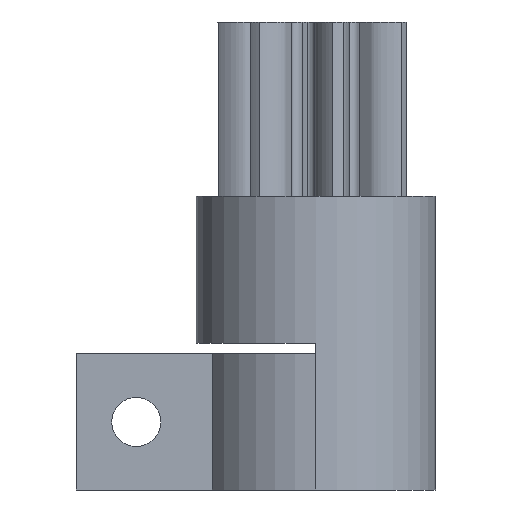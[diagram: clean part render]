
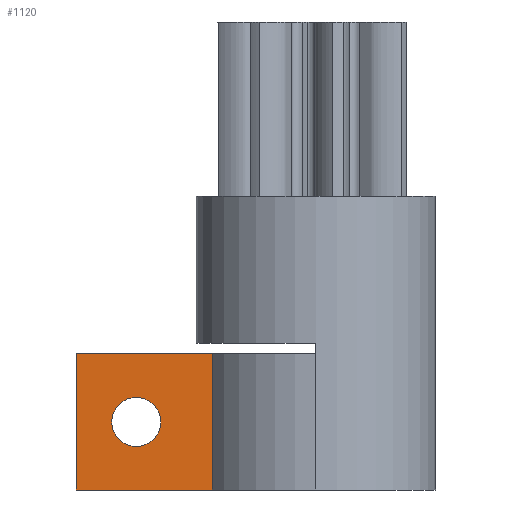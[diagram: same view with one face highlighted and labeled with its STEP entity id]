
A CAD part, front view. The second image highlights one B-rep face of the part: STEP entity #1120.
In plain terms, the highlighted planar face has unit normal (0, -1, 0).
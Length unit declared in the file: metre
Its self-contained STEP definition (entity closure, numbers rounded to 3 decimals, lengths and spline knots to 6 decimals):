
#61=PLANE('',#1248);
#69=LINE('',#1573,#139);
#128=LINE('',#3690,#198);
#129=LINE('',#3692,#199);
#130=LINE('',#3694,#200);
#139=VECTOR('',#1268,1.);
#198=VECTOR('',#1535,1.);
#199=VECTOR('',#1536,1.);
#200=VECTOR('',#1537,1.);
#501=ORIENTED_EDGE('',*,*,#700,.T.);
#502=ORIENTED_EDGE('',*,*,#701,.T.);
#503=ORIENTED_EDGE('',*,*,#702,.F.);
#504=ORIENTED_EDGE('',*,*,#703,.F.);
#505=ORIENTED_EDGE('',*,*,#547,.T.);
#547=EDGE_CURVE('',#716,#714,#69,.T.);
#700=EDGE_CURVE('',#821,#821,#895,.T.);
#701=EDGE_CURVE('',#714,#822,#128,.T.);
#702=EDGE_CURVE('',#823,#822,#129,.T.);
#703=EDGE_CURVE('',#716,#823,#130,.T.);
#714=VERTEX_POINT('',#1571);
#716=VERTEX_POINT('',#1574);
#821=VERTEX_POINT('',#3689);
#822=VERTEX_POINT('',#3691);
#823=VERTEX_POINT('',#3693);
#895=CIRCLE('',#1249,0.00225);
#953=EDGE_LOOP('',(#501));
#954=EDGE_LOOP('',(#502,#503,#504,#505));
#1023=FACE_BOUND('',#953,.T.);
#1024=FACE_BOUND('',#954,.T.);
#1120=ADVANCED_FACE('',(#1023,#1024),#61,.F.);
#1248=AXIS2_PLACEMENT_3D('',#3687,#1531,#1532);
#1249=AXIS2_PLACEMENT_3D('',#3688,#1533,#1534);
#1268=DIRECTION('',(0.,0.,1.));
#1531=DIRECTION('',(0.,1.,0.));
#1532=DIRECTION('',(1.,0.,0.));
#1533=DIRECTION('',(0.,1.,0.));
#1534=DIRECTION('',(1.,0.,0.));
#1535=DIRECTION('',(-1.,0.,0.));
#1536=DIRECTION('',(0.,0.,1.));
#1537=DIRECTION('',(-1.,0.,0.));
#1571=CARTESIAN_POINT('',(-0.009526,-0.0055,-0.0125));
#1573=CARTESIAN_POINT('',(-0.009526,-0.0055,-0.025));
#1574=CARTESIAN_POINT('',(-0.009526,-0.0055,-0.025));
#3687=CARTESIAN_POINT('',(-0.015763,-0.0055,-0.025));
#3688=CARTESIAN_POINT('',(-0.0165,-0.0055,-0.01875));
#3689=CARTESIAN_POINT('',(-0.01425,-0.0055,-0.01875));
#3690=CARTESIAN_POINT('',(-0.015763,-0.0055,-0.0125));
#3691=CARTESIAN_POINT('',(-0.022,-0.0055,-0.0125));
#3692=CARTESIAN_POINT('',(-0.022,-0.0055,-0.025));
#3693=CARTESIAN_POINT('',(-0.022,-0.0055,-0.025));
#3694=CARTESIAN_POINT('',(-0.015763,-0.0055,-0.025));
